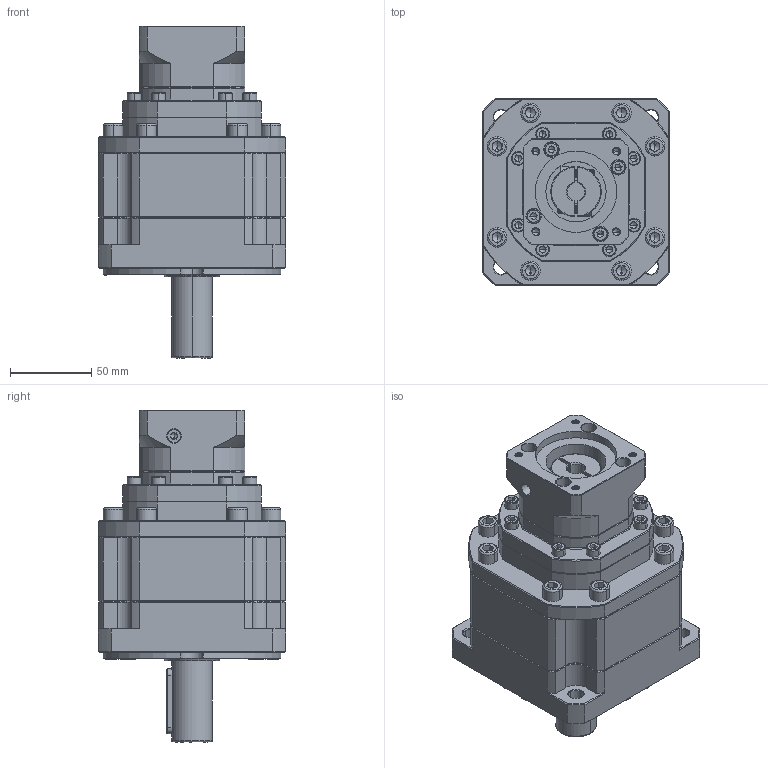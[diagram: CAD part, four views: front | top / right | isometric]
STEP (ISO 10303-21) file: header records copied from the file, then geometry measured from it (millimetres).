
FILE_DESCRIPTION (( 'STEP AP214' ), '1' );
FILE_NAME ('ZB115A-D25-L3-11-50-70-M5.step', '2023-03-03T09:52:36', ( '' ), ( 'Microsoft' ), 'SwSTEP 2.0', 'SolidWorks 2016', '' );
FILE_SCHEMA (( 'AUTOMOTIVE_DESIGN' ));
Length unit declared in the file: millimetre
Products named in the file (1): ZB115A-D25-L3-11-50-70-M5
Bounding box: 115 x 115 x 204 mm (x, y, z)
Volume: 1294603 mm3; surface area: 122083.7 mm2
Topology: 7 solids, 7 shells, 2281 faces, 5920 edges, 3748 vertices
Faces by surface type: plane 1126, cylinder 446, bspline 345, cone 342, torus 22
Entity records: 116995 total; most frequent: CARTESIAN_POINT 38987, ORIENTED_EDGE 11716, DIRECTION 9794, EDGE_CURVE 5858, VERTEX_POINT 3748, LINE 3656, VECTOR 3656, AXIS2_PLACEMENT_3D 3069
